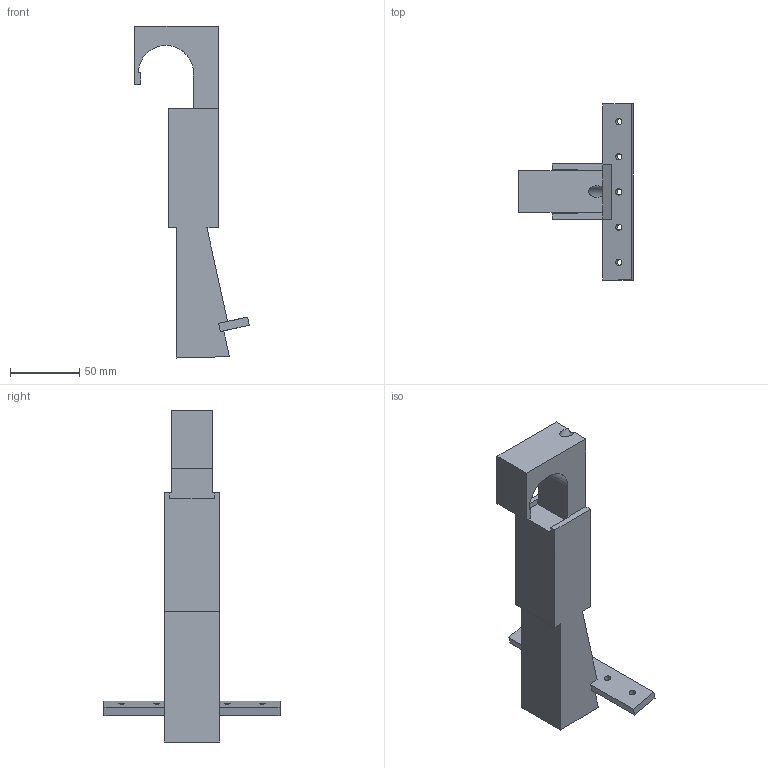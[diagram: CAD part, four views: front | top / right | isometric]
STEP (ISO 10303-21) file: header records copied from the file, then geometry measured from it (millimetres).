
FILE_DESCRIPTION(('Open CASCADE Model'),'2;1');
FILE_NAME('Open CASCADE Shape Model','2026-10-18T02:27:58',('Author'),( 'Open CASCADE'),'Open CASCADE STEP processor 7.9','Open CASCADE 7.9' ,'Unknown');
FILE_SCHEMA(('AUTOMOTIVE_DESIGN { 1 0 10303 214 1 1 1 1 }'));
Length unit declared in the file: millimetre
Products named in the file (1): Open CASCADE STEP translator 7.9 1
Bounding box: 82.77 x 127 x 239.55 mm (x, y, z)
Volume: 311637.4 mm3; surface area: 48739.3 mm2
Topology: 1 solids, 1 shells, 48 faces, 135 edges, 90 vertices
Faces by surface type: plane 39, cylinder 9
Full cylindrical faces by diameter (mm): 4.6 x5, 6.4 x1, 8.4 x2
Entity records: 3621 total; most frequent: CARTESIAN_POINT 975, DIRECTION 462, LINE 316, VECTOR 316, ORIENTED_EDGE 270, PCURVE 270, DEFINITIONAL_REPRESENTATION 270, EDGE_CURVE 135
